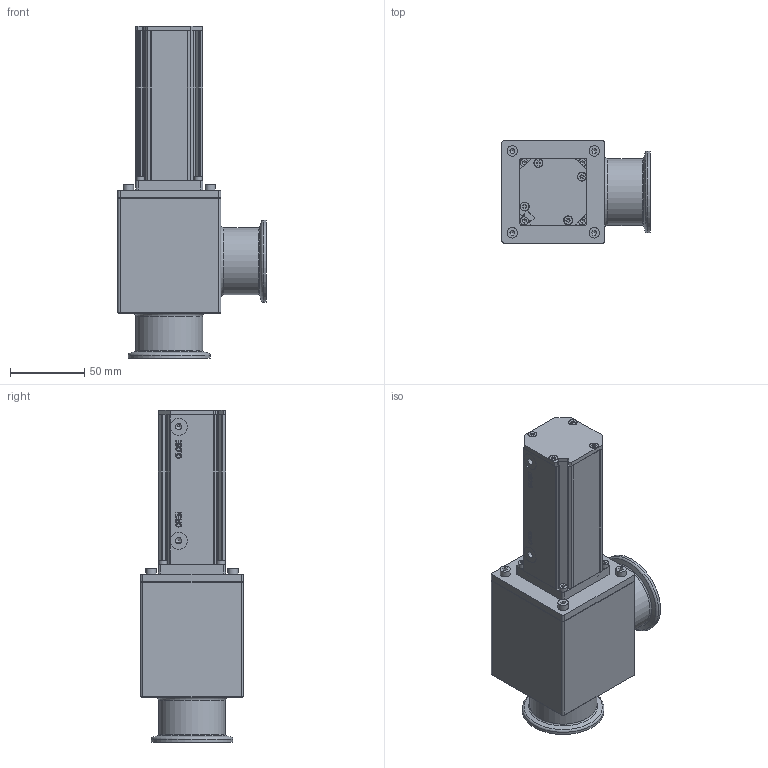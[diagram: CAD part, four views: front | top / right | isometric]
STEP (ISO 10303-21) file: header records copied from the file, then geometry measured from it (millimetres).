
FILE_DESCRIPTION(/* description */ (''),/* implementation_level */ '2;1');
FILE_NAME(/* name */ '1148284290_203.stp',/* time_stamp */ '2013-07-16T12:44:40+02:00',/* author */ (''),/* organization */ (''),/* preprocessor_version */ 'ST-DEVELOPER v11',/* originating_system */ 'SIEMENS PLM Software NX 7.5',/* authorisation */ '');
FILE_SCHEMA (('AP203_CONFIGURATION_CONTROLLED_3D_DESIGN_OF_MECHANICAL_PARTS_AND_ASSEMBLIES_MIM_LF'));
Length unit declared in the file: millimetre
Products named in the file (10): n-6013-433.1; 408520; 430597; 406780; 416653; 415935; 236055.1; 518056; 415898; 486155
Assembly tree (18 placements, depth 2):
  486155
    415898
    518056
    236055.1  x4
    415935  x4
    416653
    406780
    430597
    408520
    n-6013-433.1  x4
Bounding box: 99.5 x 69 x 222.89 mm (x, y, z)
Volume: 288955.8 mm3; surface area: 127472.2 mm2
Topology: 34 solids, 34 shells, 655 faces, 1604 edges, 1045 vertices
Faces by surface type: plane 360, cylinder 184, cone 77, extrusion 20, torus 13, bspline 1
Full cylindrical faces by diameter (mm): 1 x2, 2 x2, 2.46 x4, 2.5 x16, 3 x12, 3.2 x4, 3.26 x4, 3.3 x16, 4 x8, 4.2 x2, 4.5 x4, 5.5 x4, 5.6 x4, 5.7 x4, 7 x4, 11.5 x2, 17.5 x1, 24.8 x1, 30.6 x1, 33 x1, 35 x1, 37.1 x1, 37.45 x1, 39 x2, 40.18 x2, 40.2 x1, 41.3 x2, 45 x2, 54.9 x2, 61.3 x1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
Entity records: 16786 total; most frequent: CARTESIAN_POINT 4263, DIRECTION 2208, ORIENTED_EDGE 2084, EDGE_CURVE 1042, AXIS2_PLACEMENT_3D 842, VERTEX_POINT 766, EDGE_LOOP 709, VECTOR 524
